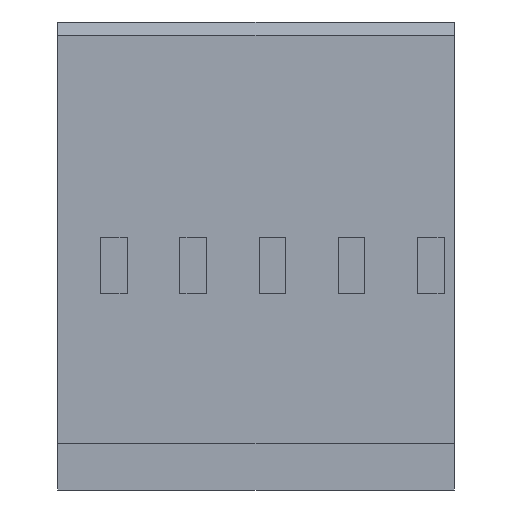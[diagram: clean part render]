
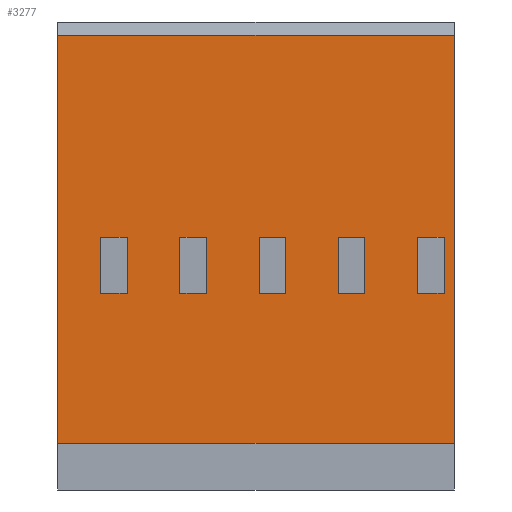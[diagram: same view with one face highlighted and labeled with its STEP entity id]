
A CAD part, front view. The second image highlights one B-rep face of the part: STEP entity #3277.
In plain terms, the highlighted planar face has unit normal (0, -1, 0).
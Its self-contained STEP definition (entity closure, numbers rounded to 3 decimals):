
#182=DIRECTION('',(0.,0.,1.));
#183=VECTOR('',#182,13.071);
#184=CARTESIAN_POINT('',(6.35,-2.97,-13.5));
#185=LINE('',#184,#183);
#482=DIRECTION('',(0.,0.,1.));
#483=VECTOR('',#482,13.071);
#484=CARTESIAN_POINT('',(-6.35,-2.97,-13.5));
#485=LINE('',#484,#483);
#530=DIRECTION('',(-1.,0.,0.));
#531=VECTOR('',#530,12.7);
#532=CARTESIAN_POINT('',(6.35,-2.97,-0.429));
#533=LINE('',#532,#531);
#534=DIRECTION('',(-1.,0.,0.));
#535=VECTOR('',#534,12.7);
#536=CARTESIAN_POINT('',(6.35,-2.97,-13.5));
#537=LINE('',#536,#535);
#538=DIRECTION('',(0.,0.,1.));
#539=VECTOR('',#538,1.8);
#540=CARTESIAN_POINT('',(-4.13,-2.97,-8.7));
#541=LINE('',#540,#539);
#542=DIRECTION('',(-1.,0.,0.));
#543=VECTOR('',#542,0.85);
#544=CARTESIAN_POINT('',(-4.13,-2.97,-6.9));
#545=LINE('',#544,#543);
#546=DIRECTION('',(0.,0.,-1.));
#547=VECTOR('',#546,1.8);
#548=CARTESIAN_POINT('',(-4.98,-2.97,-6.9));
#549=LINE('',#548,#547);
#550=DIRECTION('',(1.,0.,0.));
#551=VECTOR('',#550,0.85);
#552=CARTESIAN_POINT('',(-4.98,-2.97,-8.7));
#553=LINE('',#552,#551);
#554=DIRECTION('',(0.,0.,1.));
#555=VECTOR('',#554,1.8);
#556=CARTESIAN_POINT('',(-1.59,-2.97,-8.7));
#557=LINE('',#556,#555);
#558=DIRECTION('',(-1.,0.,0.));
#559=VECTOR('',#558,0.85);
#560=CARTESIAN_POINT('',(-1.59,-2.97,-6.9));
#561=LINE('',#560,#559);
#562=DIRECTION('',(0.,0.,-1.));
#563=VECTOR('',#562,1.8);
#564=CARTESIAN_POINT('',(-2.44,-2.97,-6.9));
#565=LINE('',#564,#563);
#566=DIRECTION('',(1.,0.,0.));
#567=VECTOR('',#566,0.85);
#568=CARTESIAN_POINT('',(-2.44,-2.97,-8.7));
#569=LINE('',#568,#567);
#570=DIRECTION('',(0.,0.,1.));
#571=VECTOR('',#570,1.8);
#572=CARTESIAN_POINT('',(0.95,-2.97,-8.7));
#573=LINE('',#572,#571);
#574=DIRECTION('',(-1.,0.,0.));
#575=VECTOR('',#574,0.85);
#576=CARTESIAN_POINT('',(0.95,-2.97,-6.9));
#577=LINE('',#576,#575);
#578=DIRECTION('',(0.,0.,-1.));
#579=VECTOR('',#578,1.8);
#580=CARTESIAN_POINT('',(0.1,-2.97,-6.9));
#581=LINE('',#580,#579);
#582=DIRECTION('',(1.,0.,0.));
#583=VECTOR('',#582,0.85);
#584=CARTESIAN_POINT('',(0.1,-2.97,-8.7));
#585=LINE('',#584,#583);
#586=DIRECTION('',(0.,0.,1.));
#587=VECTOR('',#586,1.8);
#588=CARTESIAN_POINT('',(3.49,-2.97,-8.7));
#589=LINE('',#588,#587);
#590=DIRECTION('',(-1.,0.,0.));
#591=VECTOR('',#590,0.85);
#592=CARTESIAN_POINT('',(3.49,-2.97,-6.9));
#593=LINE('',#592,#591);
#594=DIRECTION('',(0.,0.,-1.));
#595=VECTOR('',#594,1.8);
#596=CARTESIAN_POINT('',(2.64,-2.97,-6.9));
#597=LINE('',#596,#595);
#598=DIRECTION('',(1.,0.,0.));
#599=VECTOR('',#598,0.85);
#600=CARTESIAN_POINT('',(2.64,-2.97,-8.7));
#601=LINE('',#600,#599);
#602=DIRECTION('',(0.,0.,1.));
#603=VECTOR('',#602,1.8);
#604=CARTESIAN_POINT('',(6.03,-2.97,-8.7));
#605=LINE('',#604,#603);
#606=DIRECTION('',(-1.,0.,0.));
#607=VECTOR('',#606,0.85);
#608=CARTESIAN_POINT('',(6.03,-2.97,-6.9));
#609=LINE('',#608,#607);
#610=DIRECTION('',(0.,0.,-1.));
#611=VECTOR('',#610,1.8);
#612=CARTESIAN_POINT('',(5.18,-2.97,-6.9));
#613=LINE('',#612,#611);
#614=DIRECTION('',(1.,0.,0.));
#615=VECTOR('',#614,0.85);
#616=CARTESIAN_POINT('',(5.18,-2.97,-8.7));
#617=LINE('',#616,#615);
#2198=CARTESIAN_POINT('',(6.35,-2.97,-13.5));
#2199=VERTEX_POINT('',#2198);
#2200=CARTESIAN_POINT('',(6.35,-2.97,-0.429));
#2201=VERTEX_POINT('',#2200);
#2228=CARTESIAN_POINT('',(-6.35,-2.97,-13.5));
#2229=VERTEX_POINT('',#2228);
#2230=CARTESIAN_POINT('',(-6.35,-2.97,-0.429));
#2231=VERTEX_POINT('',#2230);
#2378=CARTESIAN_POINT('',(-4.13,-2.97,-8.7));
#2379=CARTESIAN_POINT('',(-4.13,-2.97,-6.9));
#2380=VERTEX_POINT('',#2378);
#2381=VERTEX_POINT('',#2379);
#2382=CARTESIAN_POINT('',(-4.98,-2.97,-6.9));
#2383=VERTEX_POINT('',#2382);
#2384=CARTESIAN_POINT('',(-4.98,-2.97,-8.7));
#2385=VERTEX_POINT('',#2384);
#2602=CARTESIAN_POINT('',(-1.59,-2.97,-8.7));
#2603=VERTEX_POINT('',#2602);
#2604=CARTESIAN_POINT('',(-1.59,-2.97,-6.9));
#2605=VERTEX_POINT('',#2604);
#2606=CARTESIAN_POINT('',(-2.44,-2.97,-6.9));
#2607=VERTEX_POINT('',#2606);
#2608=CARTESIAN_POINT('',(-2.44,-2.97,-8.7));
#2609=VERTEX_POINT('',#2608);
#2666=CARTESIAN_POINT('',(0.95,-2.97,-8.7));
#2667=VERTEX_POINT('',#2666);
#2668=CARTESIAN_POINT('',(0.95,-2.97,-6.9));
#2669=VERTEX_POINT('',#2668);
#2670=CARTESIAN_POINT('',(0.1,-2.97,-6.9));
#2671=VERTEX_POINT('',#2670);
#2672=CARTESIAN_POINT('',(0.1,-2.97,-8.7));
#2673=VERTEX_POINT('',#2672);
#2730=CARTESIAN_POINT('',(3.49,-2.97,-8.7));
#2731=VERTEX_POINT('',#2730);
#2732=CARTESIAN_POINT('',(3.49,-2.97,-6.9));
#2733=VERTEX_POINT('',#2732);
#2734=CARTESIAN_POINT('',(2.64,-2.97,-6.9));
#2735=VERTEX_POINT('',#2734);
#2736=CARTESIAN_POINT('',(2.64,-2.97,-8.7));
#2737=VERTEX_POINT('',#2736);
#2818=CARTESIAN_POINT('',(6.03,-2.97,-8.7));
#2819=VERTEX_POINT('',#2818);
#2820=CARTESIAN_POINT('',(6.03,-2.97,-6.9));
#2821=VERTEX_POINT('',#2820);
#2822=CARTESIAN_POINT('',(5.18,-2.97,-6.9));
#2823=VERTEX_POINT('',#2822);
#2824=CARTESIAN_POINT('',(5.18,-2.97,-8.7));
#2825=VERTEX_POINT('',#2824);
#3215=CARTESIAN_POINT('',(6.35,-2.97,-13.5));
#3216=DIRECTION('',(0.,-1.,0.));
#3217=DIRECTION('',(0.,0.,1.));
#3218=AXIS2_PLACEMENT_3D('',#3215,#3216,#3217);
#3219=PLANE('',#3218);
#3220=ORIENTED_EDGE('',*,*,#2855,.F.);
#3222=ORIENTED_EDGE('',*,*,#3221,.T.);
#3223=ORIENTED_EDGE('',*,*,#3177,.T.);
#3224=ORIENTED_EDGE('',*,*,#3208,.F.);
#3225=EDGE_LOOP('',(#3220,#3222,#3223,#3224));
#3226=FACE_OUTER_BOUND('',#3225,.F.);
#3228=ORIENTED_EDGE('',*,*,#3227,.T.);
#3230=ORIENTED_EDGE('',*,*,#3229,.T.);
#3232=ORIENTED_EDGE('',*,*,#3231,.T.);
#3234=ORIENTED_EDGE('',*,*,#3233,.T.);
#3235=EDGE_LOOP('',(#3228,#3230,#3232,#3234));
#3236=FACE_BOUND('',#3235,.F.);
#3238=ORIENTED_EDGE('',*,*,#3237,.T.);
#3240=ORIENTED_EDGE('',*,*,#3239,.T.);
#3242=ORIENTED_EDGE('',*,*,#3241,.T.);
#3244=ORIENTED_EDGE('',*,*,#3243,.T.);
#3245=EDGE_LOOP('',(#3238,#3240,#3242,#3244));
#3246=FACE_BOUND('',#3245,.F.);
#3248=ORIENTED_EDGE('',*,*,#3247,.T.);
#3250=ORIENTED_EDGE('',*,*,#3249,.T.);
#3252=ORIENTED_EDGE('',*,*,#3251,.T.);
#3254=ORIENTED_EDGE('',*,*,#3253,.T.);
#3255=EDGE_LOOP('',(#3248,#3250,#3252,#3254));
#3256=FACE_BOUND('',#3255,.F.);
#3258=ORIENTED_EDGE('',*,*,#3257,.T.);
#3260=ORIENTED_EDGE('',*,*,#3259,.T.);
#3262=ORIENTED_EDGE('',*,*,#3261,.T.);
#3264=ORIENTED_EDGE('',*,*,#3263,.T.);
#3265=EDGE_LOOP('',(#3258,#3260,#3262,#3264));
#3266=FACE_BOUND('',#3265,.F.);
#3268=ORIENTED_EDGE('',*,*,#3267,.T.);
#3270=ORIENTED_EDGE('',*,*,#3269,.T.);
#3272=ORIENTED_EDGE('',*,*,#3271,.T.);
#3274=ORIENTED_EDGE('',*,*,#3273,.T.);
#3275=EDGE_LOOP('',(#3268,#3270,#3272,#3274));
#3276=FACE_BOUND('',#3275,.F.);
#2855=EDGE_CURVE('',#2199,#2201,#185,.T.);
#3177=EDGE_CURVE('',#2229,#2231,#485,.T.);
#3208=EDGE_CURVE('',#2201,#2231,#533,.T.);
#3221=EDGE_CURVE('',#2199,#2229,#537,.T.);
#3227=EDGE_CURVE('',#2380,#2381,#541,.T.);
#3229=EDGE_CURVE('',#2381,#2383,#545,.T.);
#3231=EDGE_CURVE('',#2383,#2385,#549,.T.);
#3233=EDGE_CURVE('',#2385,#2380,#553,.T.);
#3237=EDGE_CURVE('',#2603,#2605,#557,.T.);
#3239=EDGE_CURVE('',#2605,#2607,#561,.T.);
#3241=EDGE_CURVE('',#2607,#2609,#565,.T.);
#3243=EDGE_CURVE('',#2609,#2603,#569,.T.);
#3247=EDGE_CURVE('',#2667,#2669,#573,.T.);
#3249=EDGE_CURVE('',#2669,#2671,#577,.T.);
#3251=EDGE_CURVE('',#2671,#2673,#581,.T.);
#3253=EDGE_CURVE('',#2673,#2667,#585,.T.);
#3257=EDGE_CURVE('',#2731,#2733,#589,.T.);
#3259=EDGE_CURVE('',#2733,#2735,#593,.T.);
#3261=EDGE_CURVE('',#2735,#2737,#597,.T.);
#3263=EDGE_CURVE('',#2737,#2731,#601,.T.);
#3267=EDGE_CURVE('',#2819,#2821,#605,.T.);
#3269=EDGE_CURVE('',#2821,#2823,#609,.T.);
#3271=EDGE_CURVE('',#2823,#2825,#613,.T.);
#3273=EDGE_CURVE('',#2825,#2819,#617,.T.);
#3277=ADVANCED_FACE('',(#3226,#3236,#3246,#3256,#3266,#3276),#3219,.T.);
